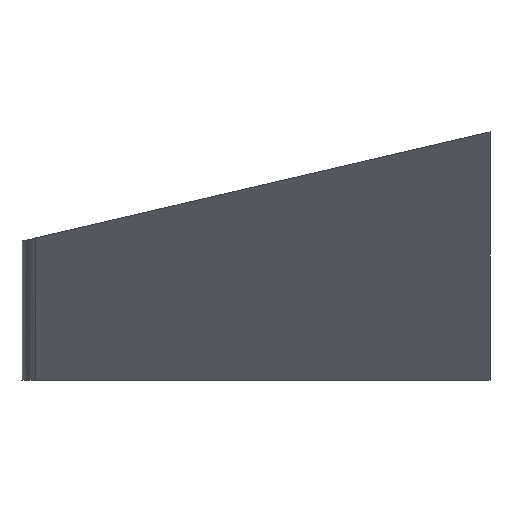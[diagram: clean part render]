
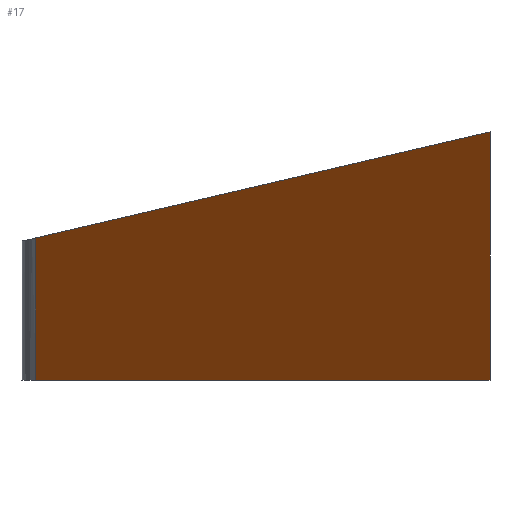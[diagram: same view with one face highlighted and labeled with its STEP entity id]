
A CAD part, front view. The second image highlights one B-rep face of the part: STEP entity #17.
In plain terms, the highlighted planar face has unit normal (-0.788, -0.616, 0).
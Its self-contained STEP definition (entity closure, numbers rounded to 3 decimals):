
#17 = ADVANCED_FACE('',(#18),#32,.F.);
#18 = FACE_BOUND('',#19,.F.);
#19 = EDGE_LOOP('',(#20,#55,#83,#109));
#20 = ORIENTED_EDGE('',*,*,#21,.F.);
#21 = EDGE_CURVE('',#22,#24,#26,.T.);
#22 = VERTEX_POINT('',#23);
#23 = CARTESIAN_POINT('',(-18.808,-0.246,-145.));
#24 = VERTEX_POINT('',#25);
#25 = CARTESIAN_POINT('',(-16.,-3.84,-145.));
#26 = SURFACE_CURVE('',#27,(#31,#43),.PCURVE_S1.);
#27 = LINE('',#28,#29);
#28 = CARTESIAN_POINT('',(-19.,0.,-145.));
#29 = VECTOR('',#30,1.);
#30 = DIRECTION('',(0.616,-0.788,0.));
#31 = PCURVE('',#32,#37);
#32 = PLANE('',#33);
#33 = AXIS2_PLACEMENT_3D('',#34,#35,#36);
#34 = CARTESIAN_POINT('',(-19.,0.,-145.));
#35 = DIRECTION('',(0.788,0.616,-0.));
#36 = DIRECTION('',(0.616,-0.788,0.));
#37 = DEFINITIONAL_REPRESENTATION('',(#38),#42);
#38 = LINE('',#39,#40);
#39 = CARTESIAN_POINT('',(0.,0.));
#40 = VECTOR('',#41,1.);
#41 = DIRECTION('',(1.,0.));
#42 = ( GEOMETRIC_REPRESENTATION_CONTEXT(2) 
PARAMETRIC_REPRESENTATION_CONTEXT() REPRESENTATION_CONTEXT('2D SPACE',''
  ) );
#43 = PCURVE('',#44,#49);
#44 = PLANE('',#45);
#45 = AXIS2_PLACEMENT_3D('',#46,#47,#48);
#46 = CARTESIAN_POINT('',(-6.754,0.,-145.));
#47 = DIRECTION('',(0.,0.,1.));
#48 = DIRECTION('',(1.,0.,-0.));
#49 = DEFINITIONAL_REPRESENTATION('',(#50),#54);
#50 = LINE('',#51,#52);
#51 = CARTESIAN_POINT('',(-12.246,0.));
#52 = VECTOR('',#53,1.);
#53 = DIRECTION('',(0.616,-0.788));
#54 = ( GEOMETRIC_REPRESENTATION_CONTEXT(2) 
PARAMETRIC_REPRESENTATION_CONTEXT() REPRESENTATION_CONTEXT('2D SPACE',''
  ) );
#55 = ORIENTED_EDGE('',*,*,#56,.T.);
#56 = EDGE_CURVE('',#22,#57,#59,.T.);
#57 = VERTEX_POINT('',#58);
#58 = CARTESIAN_POINT('',(-18.808,-0.246,-144.122
    ));
#59 = SURFACE_CURVE('',#60,(#64,#71),.PCURVE_S1.);
#60 = LINE('',#61,#62);
#61 = CARTESIAN_POINT('',(-18.808,-0.246,-145.));
#62 = VECTOR('',#63,1.);
#63 = DIRECTION('',(0.,0.,1.));
#64 = PCURVE('',#32,#65);
#65 = DEFINITIONAL_REPRESENTATION('',(#66),#70);
#66 = LINE('',#67,#68);
#67 = CARTESIAN_POINT('',(0.313,0.));
#68 = VECTOR('',#69,1.);
#69 = DIRECTION('',(0.,-1.));
#70 = ( GEOMETRIC_REPRESENTATION_CONTEXT(2) 
PARAMETRIC_REPRESENTATION_CONTEXT() REPRESENTATION_CONTEXT('2D SPACE',''
  ) );
#71 = PCURVE('',#72,#77);
#72 = CYLINDRICAL_SURFACE('',#73,0.4);
#73 = AXIS2_PLACEMENT_3D('',#74,#75,#76);
#74 = CARTESIAN_POINT('',(-18.492,0.,-145.));
#75 = DIRECTION('',(0.,0.,1.));
#76 = DIRECTION('',(-0.788,-0.616,0.));
#77 = DEFINITIONAL_REPRESENTATION('',(#78),#82);
#78 = LINE('',#79,#80);
#79 = CARTESIAN_POINT('',(-0.,0.));
#80 = VECTOR('',#81,1.);
#81 = DIRECTION('',(-0.,1.));
#82 = ( GEOMETRIC_REPRESENTATION_CONTEXT(2) 
PARAMETRIC_REPRESENTATION_CONTEXT() REPRESENTATION_CONTEXT('2D SPACE',''
  ) );
#83 = ORIENTED_EDGE('',*,*,#84,.T.);
#84 = EDGE_CURVE('',#57,#85,#87,.T.);
#85 = VERTEX_POINT('',#86);
#86 = CARTESIAN_POINT('',(-16.,-3.84,-143.467));
#87 = SURFACE_CURVE('',#88,(#92,#98),.PCURVE_S1.);
#88 = LINE('',#89,#90);
#89 = CARTESIAN_POINT('',(-19.232,0.297,-144.221
    ));
#90 = VECTOR('',#91,1.);
#91 = DIRECTION('',(0.609,-0.78,0.142));
#92 = PCURVE('',#32,#93);
#93 = DEFINITIONAL_REPRESENTATION('',(#94),#97);
#94 = B_SPLINE_CURVE_WITH_KNOTS('',1,(#95,#96),.UNSPECIFIED.,.F.,.F.,(2,
    2),(0.696,8.585),.PIECEWISE_BEZIER_KNOTS.);
#95 = CARTESIAN_POINT('',(0.313,-0.878));
#96 = CARTESIAN_POINT('',(8.121,-2.));
#97 = ( GEOMETRIC_REPRESENTATION_CONTEXT(2) 
PARAMETRIC_REPRESENTATION_CONTEXT() REPRESENTATION_CONTEXT('2D SPACE',''
  ) );
#98 = PCURVE('',#99,#104);
#99 = PLANE('',#100);
#100 = AXIS2_PLACEMENT_3D('',#101,#102,#103);
#101 = CARTESIAN_POINT('',(-20.,0.,-144.4));
#102 = DIRECTION('',(-0.227,0.,0.974));
#103 = DIRECTION('',(0.974,0.,0.227));
#104 = DEFINITIONAL_REPRESENTATION('',(#105),#108);
#105 = B_SPLINE_CURVE_WITH_KNOTS('',1,(#106,#107),.UNSPECIFIED.,.F.,.F.,
  (2,2),(0.696,8.585),.PIECEWISE_BEZIER_KNOTS.);
#106 = CARTESIAN_POINT('',(1.224,-0.246));
#107 = CARTESIAN_POINT('',(6.161,-6.4));
#108 = ( GEOMETRIC_REPRESENTATION_CONTEXT(2) 
PARAMETRIC_REPRESENTATION_CONTEXT() REPRESENTATION_CONTEXT('2D SPACE',''
  ) );
#109 = ORIENTED_EDGE('',*,*,#110,.T.);
#110 = EDGE_CURVE('',#85,#24,#111,.T.);
#111 = SURFACE_CURVE('',#112,(#116,#122),.PCURVE_S1.);
#112 = LINE('',#113,#114);
#113 = CARTESIAN_POINT('',(-16.,-3.84,-145.5));
#114 = VECTOR('',#115,1.);
#115 = DIRECTION('',(0.,-0.,-1.));
#116 = PCURVE('',#32,#117);
#117 = DEFINITIONAL_REPRESENTATION('',(#118),#121);
#118 = B_SPLINE_CURVE_WITH_KNOTS('',1,(#119,#120),.UNSPECIFIED.,.F.,.F.,
  (2,2),(-2.5,-0.5),.PIECEWISE_BEZIER_KNOTS.);
#119 = CARTESIAN_POINT('',(4.873,-2.));
#120 = CARTESIAN_POINT('',(4.873,0.));
#121 = ( GEOMETRIC_REPRESENTATION_CONTEXT(2) 
PARAMETRIC_REPRESENTATION_CONTEXT() REPRESENTATION_CONTEXT('2D SPACE',''
  ) );
#122 = PCURVE('',#123,#128);
#123 = PLANE('',#124);
#124 = AXIS2_PLACEMENT_3D('',#125,#126,#127);
#125 = CARTESIAN_POINT('',(-16.,-40.,-146.));
#126 = DIRECTION('',(1.,0.,0.));
#127 = DIRECTION('',(0.,0.,1.));
#128 = DEFINITIONAL_REPRESENTATION('',(#129),#132);
#129 = B_SPLINE_CURVE_WITH_KNOTS('',1,(#130,#131),.UNSPECIFIED.,.F.,.F.,
  (2,2),(-2.5,-0.5),.PIECEWISE_BEZIER_KNOTS.);
#130 = CARTESIAN_POINT('',(3.,-36.16));
#131 = CARTESIAN_POINT('',(1.,-36.16));
#132 = ( GEOMETRIC_REPRESENTATION_CONTEXT(2) 
PARAMETRIC_REPRESENTATION_CONTEXT() REPRESENTATION_CONTEXT('2D SPACE',''
  ) );
